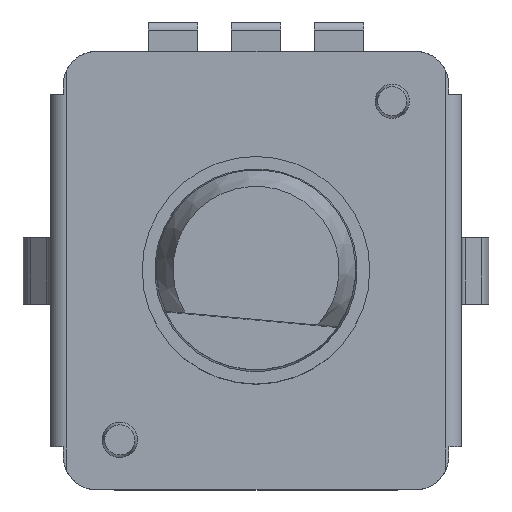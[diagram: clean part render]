
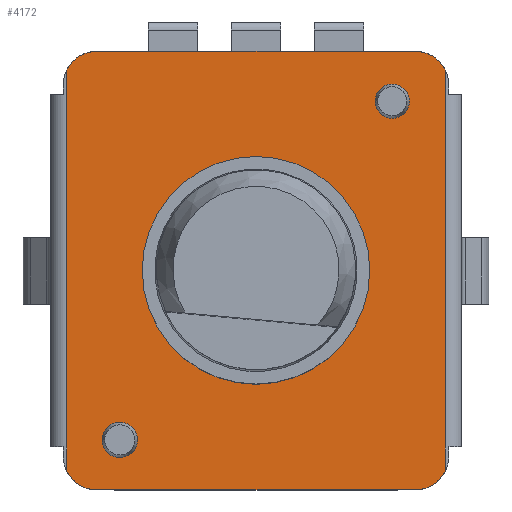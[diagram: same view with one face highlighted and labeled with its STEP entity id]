
A CAD part, top view. The second image highlights one B-rep face of the part: STEP entity #4172.
In plain terms, the highlighted planar face has unit normal (0, 0, 1).
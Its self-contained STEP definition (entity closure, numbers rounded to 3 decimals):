
#283=LINE($,#6554,#729);
#372=LINE($,#6786,#818);
#383=LINE($,#6812,#829);
#393=LINE($,#6849,#839);
#729=VECTOR($,#5329,12.072);
#818=VECTOR($,#5518,9.6);
#829=VECTOR($,#5553,9.6);
#839=VECTOR($,#5583,12.072);
#1145=FACE_OUTER_BOUND($,#1363,.T.);
#1363=EDGE_LOOP($,(#3422,#3423,#3424,#3425,#3426,#3427,#3428,#3429));
#1526=CIRCLE($,#4522,1.);
#1527=CIRCLE($,#4526,1.);
#1530=CIRCLE($,#4534,1.);
#1531=CIRCLE($,#4537,1.);
#1825=VERTEX_POINT($,#6546);
#1826=VERTEX_POINT($,#6553);
#1904=VERTEX_POINT($,#6772);
#1906=VERTEX_POINT($,#6780);
#1907=VERTEX_POINT($,#6785);
#1909=VERTEX_POINT($,#6806);
#1910=VERTEX_POINT($,#6810);
#1912=VERTEX_POINT($,#6815);
#2340=EDGE_CURVE($,#1825,#1826,#283,.T.);
#2449=EDGE_CURVE($,#1904,#1906,#1526,.T.);
#2452=EDGE_CURVE($,#1906,#1907,#372,.T.);
#2457=EDGE_CURVE($,#1907,#1825,#1527,.T.);
#2464=EDGE_CURVE($,#1826,#1909,#1530,.T.);
#2467=EDGE_CURVE($,#1909,#1910,#383,.T.);
#2470=EDGE_CURVE($,#1910,#1912,#1531,.T.);
#2483=EDGE_CURVE($,#1912,#1904,#393,.T.);
#3422=ORIENTED_EDGE($,*,*,#2340,.F.);
#3423=ORIENTED_EDGE($,*,*,#2457,.F.);
#3424=ORIENTED_EDGE($,*,*,#2452,.F.);
#3425=ORIENTED_EDGE($,*,*,#2449,.F.);
#3426=ORIENTED_EDGE($,*,*,#2483,.F.);
#3427=ORIENTED_EDGE($,*,*,#2470,.F.);
#3428=ORIENTED_EDGE($,*,*,#2467,.F.);
#3429=ORIENTED_EDGE($,*,*,#2464,.F.);
#3764=PLANE($,#4545);
#4172=ADVANCED_FACE($,(#1145),#3764,.T.);
#4522=AXIS2_PLACEMENT_3D($,#6781,#5512,#5513);
#4526=AXIS2_PLACEMENT_3D($,#6794,#5527,#5528);
#4534=AXIS2_PLACEMENT_3D($,#6807,#5547,#5548);
#4537=AXIS2_PLACEMENT_3D($,#6823,#5557,#5558);
#4545=AXIS2_PLACEMENT_3D($,#6848,#5581,#5582);
#5329=DIRECTION($,(0.,1.,0.));
#5512=DIRECTION('center_axis',(0.,0.,
-1.));
#5513=DIRECTION('ref_axis',(0.707,-0.707,0.));
#5518=DIRECTION($,(-1.,0.,0.));
#5527=DIRECTION('center_axis',(0.,0.,
-1.));
#5528=DIRECTION('ref_axis',(-0.707,-0.707,0.));
#5547=DIRECTION('center_axis',(0.,0.,
-1.));
#5548=DIRECTION('ref_axis',(-0.707,0.707,0.));
#5553=DIRECTION($,(1.,0.,0.));
#5557=DIRECTION('center_axis',(0.,0.,
-1.));
#5558=DIRECTION('ref_axis',(0.707,0.707,0.));
#5581=DIRECTION('center_axis',(0.,0.,
1.));
#5582=DIRECTION('ref_axis',(1.,0.,0.));
#5583=DIRECTION($,(0.,-1.,0.));
#6546=CARTESIAN_POINT('',(-5.7,-6.036,6.1));
#6553=CARTESIAN_POINT('',(-5.7,6.036,6.1));
#6554=CARTESIAN_POINT($,(-5.7,0.,6.1));
#6772=CARTESIAN_POINT('',(5.7,-6.036,6.1));
#6780=CARTESIAN_POINT('',(4.8,-6.6,6.1));
#6781=CARTESIAN_POINT('Origin',(4.8,-5.6,6.1));
#6785=CARTESIAN_POINT('',(-4.8,-6.6,6.1));
#6786=CARTESIAN_POINT($,(5.8,-6.6,6.1));
#6794=CARTESIAN_POINT('Origin',(-4.8,-5.6,6.1));
#6806=CARTESIAN_POINT('',(-4.8,6.6,6.1));
#6807=CARTESIAN_POINT('Origin',(-4.8,5.6,6.1));
#6810=CARTESIAN_POINT('',(4.8,6.6,6.1));
#6812=CARTESIAN_POINT($,(-5.8,6.6,6.1));
#6815=CARTESIAN_POINT('',(5.7,6.036,6.1));
#6823=CARTESIAN_POINT('Origin',(4.8,5.6,6.1));
#6848=CARTESIAN_POINT('Origin',(0.,0.,
6.1));
#6849=CARTESIAN_POINT($,(5.7,0.,6.1));
